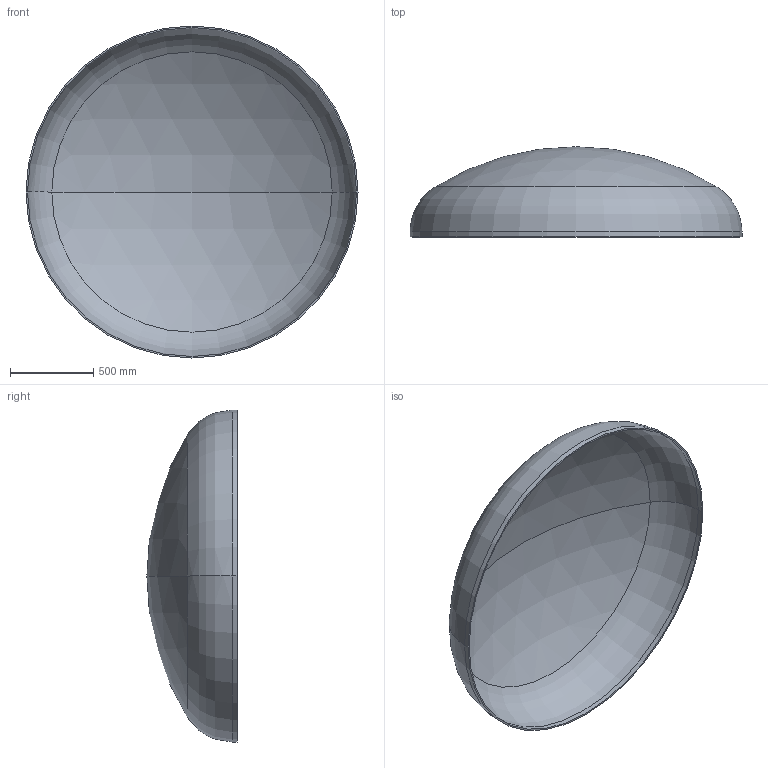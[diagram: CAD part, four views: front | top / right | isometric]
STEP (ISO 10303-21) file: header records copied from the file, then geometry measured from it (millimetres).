
FILE_DESCRIPTION (( 'STEP AP203' ), '1' );
FILE_NAME ('DIN 28013 Korbbogenform_-_Boden DIN 28013 - 2000 x 30 - I - s=9.step', '2016-07-01T13:34:55', ( '' ), ( '' ), 'SwSTEP 2.0', 'SolidWorks 2013', '' );
FILE_SCHEMA (( 'CONFIG_CONTROL_DESIGN' ));
Length unit declared in the file: millimetre
Products named in the file (1): DIN 28013 Korbbogenform_-_Boden DIN 28013 - 2000 x 30 - I - s=9
Bounding box: 2000 x 543.4 x 2000 mm (x, y, z)
Volume: 40666990.2 mm3; surface area: 9093569.2 mm2
Topology: 1 solids, 1 shells, 13 faces, 24 edges, 14 vertices
Faces by surface type: torus 4, cylinder 4, sphere 4, plane 1
Entity records: 407 total; most frequent: DIRECTION 72, CARTESIAN_POINT 52, ORIENTED_EDGE 48, AXIS2_PLACEMENT_3D 34, EDGE_CURVE 24, CIRCLE 20, EDGE_LOOP 14, VERTEX_POINT 14
